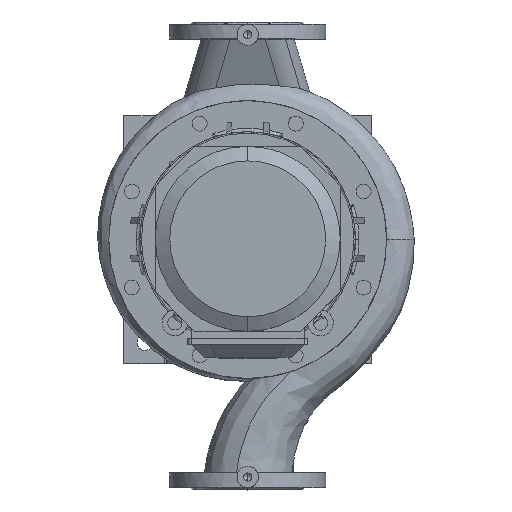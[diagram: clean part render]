
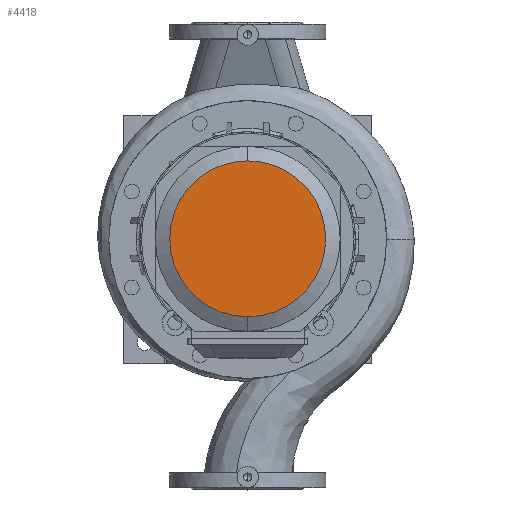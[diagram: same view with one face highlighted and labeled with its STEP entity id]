
A CAD part, top view. The second image highlights one B-rep face of the part: STEP entity #4418.
In plain terms, the highlighted planar face has unit normal (0, 0, 1) as drawn and (0, 1, 0) by its records, which use the part's own axes.
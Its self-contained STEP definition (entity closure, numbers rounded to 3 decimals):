
#4418=ADVANCED_FACE('F159',(#8985),#8986,.T.);
#8985=FACE_OUTER_BOUND('',#13753,.T.);
#8986=PLANE('',#13754);
#13753=EDGE_LOOP('',(#15746,#15747));
#13754=AXIS2_PLACEMENT_3D('',#15748,#15749,#15750);
#15746=ORIENTED_EDGE('',*,*,#18811,.T.);
#15747=ORIENTED_EDGE('',*,*,#18737,.T.);
#15748=CARTESIAN_POINT('',(-121.0,166.0,-121.0));
#15749=DIRECTION('',(0.0,1.0,0.0));
#15750=DIRECTION('',(1.0,0.0,-0.0));
#18737=EDGE_CURVE('E447',#24265,#24263,#24266,.T.);
#18811=EDGE_CURVE('E447',#24263,#24265,#24387,.T.);
#24263=VERTEX_POINT('',#26423);
#24265=VERTEX_POINT('',#26426);
#24266=CIRCLE('',#26427,110.0);
#24387=CIRCLE('',#26607,110.0);
#26423=CARTESIAN_POINT('',(0.,166.0,-110.0));
#26426=CARTESIAN_POINT('',(0.,166.0,110.0));
#26427=AXIS2_PLACEMENT_3D('',#27688,#27689,#27690);
#26607=AXIS2_PLACEMENT_3D('',#27792,#27793,#27794);
#27688=CARTESIAN_POINT('',(0.0,166.0,0.0));
#27689=DIRECTION('',(0.0,1.0,0.0));
#27690=DIRECTION('',(0.0,0.0,1.0));
#27792=CARTESIAN_POINT('',(0.0,166.0,0.0));
#27793=DIRECTION('',(0.0,1.0,0.0));
#27794=DIRECTION('',(0.0,0.0,1.0));
